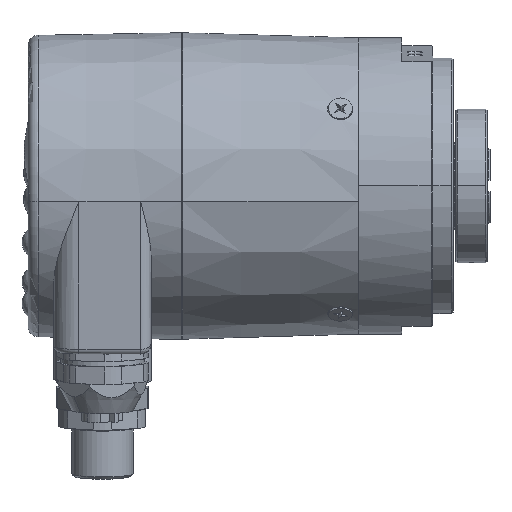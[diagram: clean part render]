
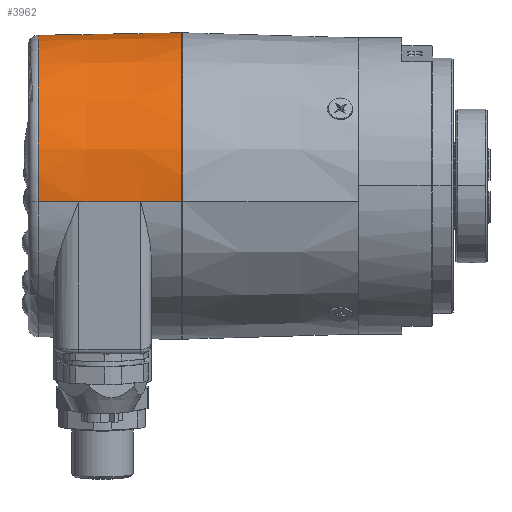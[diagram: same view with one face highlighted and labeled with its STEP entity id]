
A CAD part, top view. The second image highlights one B-rep face of the part: STEP entity #3962.
In plain terms, the highlighted conical face has half-angle 1 degrees and reference radius 30 mm.
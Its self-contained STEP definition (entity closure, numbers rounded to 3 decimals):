
#3837 = VERTEX_POINT ( 'NONE', #18920 ) ;
#3838 = ORIENTED_EDGE ( 'NONE', *, *, #3986, .T. ) ;
#3923 = ORIENTED_EDGE ( 'NONE', *, *, #3925, .F. ) ;
#3925 = EDGE_CURVE ( 'NONE', #3926, #3998, #19137, .T. ) ;
#3926 = VERTEX_POINT ( 'NONE', #19133 ) ;
#3927 = ORIENTED_EDGE ( 'NONE', *, *, #3928, .F. ) ;
#3928 = EDGE_CURVE ( 'NONE', #3972, #3926, #19131, .T. ) ;
#3962 = ADVANCED_FACE ( 'NONE', ( #19149 ), #19169, .T. ) ;
#3964 = EDGE_LOOP ( 'NONE', ( #3967, #3977, #3838, #3988, #3993, #3996, #3923, #3927 ) ) ;
#3967 = ORIENTED_EDGE ( 'NONE', *, *, #3969, .T. ) ;
#3969 = EDGE_CURVE ( 'NONE', #3972, #3975, #19230, .T. ) ;
#3972 = VERTEX_POINT ( 'NONE', #19223 ) ;
#3975 = VERTEX_POINT ( 'NONE', #19222 ) ;
#3977 = ORIENTED_EDGE ( 'NONE', *, *, #3979, .T. ) ;
#3979 = EDGE_CURVE ( 'NONE', #3975, #3837, #19220, .T. ) ;
#3986 = EDGE_CURVE ( 'NONE', #3837, #3987, #19256, .T. ) ;
#3987 = VERTEX_POINT ( 'NONE', #19252 ) ;
#3988 = ORIENTED_EDGE ( 'NONE', *, *, #3990, .T. ) ;
#3990 = EDGE_CURVE ( 'NONE', #3987, #3991, #19251, .T. ) ;
#3991 = VERTEX_POINT ( 'NONE', #19247 ) ;
#3993 = ORIENTED_EDGE ( 'NONE', *, *, #3994, .F. ) ;
#3994 = EDGE_CURVE ( 'NONE', #3995, #3991, #19246, .T. ) ;
#3995 = VERTEX_POINT ( 'NONE', #19239 ) ;
#3996 = ORIENTED_EDGE ( 'NONE', *, *, #3997, .F. ) ;
#3997 = EDGE_CURVE ( 'NONE', #3998, #3995, #19238, .T. ) ;
#3998 = VERTEX_POINT ( 'NONE', #19234 ) ;
#18920 = CARTESIAN_POINT ( 'NONE',  ( -46.383, -2.172, 29.155 ) ) ;
#19128 = DIRECTION ( 'NONE',  ( 1., 0.002, -0.017 ) ) ;
#19129 = VECTOR ( 'NONE', #19128, 1000. ) ;
#19130 = CARTESIAN_POINT ( 'NONE',  ( -26.295, 4.064, -30.167 ) ) ;
#19131 = LINE ( 'NONE', #19130, #19129 ) ;
#19133 = CARTESIAN_POINT ( 'NONE',  ( -46.383, 4.027, -29.819 ) ) ;
#19134 = DIRECTION ( 'NONE',  ( 1., 0.002, -0.017 ) ) ;
#19135 = VECTOR ( 'NONE', #19134, 1000. ) ;
#19136 = CARTESIAN_POINT ( 'NONE',  ( -26.819, 4.063, -30.158 ) ) ;
#19137 = LINE ( 'NONE', #19136, #19135 ) ;
#19149 = FACE_OUTER_BOUND ( 'NONE', #3964, .T. ) ;
#19168 = AXIS2_PLACEMENT_3D ( 'NONE', #19172, #19232, #19231 ) ;
#19169 = CONICAL_SURFACE ( 'NONE', #19168, 30., 0.017 ) ;
#19172 = CARTESIAN_POINT ( 'NONE',  ( -26.295, 0.928, -0.332 ) ) ;
#19217 = DIRECTION ( 'NONE',  ( 1., -0.002, 0.017 ) ) ;
#19218 = VECTOR ( 'NONE', #19217, 1000. ) ;
#19219 = CARTESIAN_POINT ( 'NONE',  ( -26.295, -2.208, 29.504 ) ) ;
#19220 = LINE ( 'NONE', #19219, #19218 ) ;
#19222 = CARTESIAN_POINT ( 'NONE',  ( -54.33, -2.157, 29.017 ) ) ;
#19223 = CARTESIAN_POINT ( 'NONE',  ( -54.33, 4.012, -29.681 ) ) ;
#19224 = DIRECTION ( 'NONE',  ( 0., -0.105, 0.995 ) ) ;
#19225 = DIRECTION ( 'NONE',  ( 1., 0., 0. ) ) ;
#19226 = CARTESIAN_POINT ( 'NONE',  ( -54.33, 0.928, -0.332 ) ) ;
#19228 = AXIS2_PLACEMENT_3D ( 'NONE', #19226, #19225, #19224 ) ;
#19230 = CIRCLE ( 'NONE', #19228, 29.511 ) ;
#19231 = DIRECTION ( 'NONE',  ( 0., 0.105, -0.995 ) ) ;
#19232 = DIRECTION ( 'NONE',  ( 1., 0., 0. ) ) ;
#19234 = CARTESIAN_POINT ( 'NONE',  ( -34.33, 4.049, -30.028 ) ) ;
#19235 = DIRECTION ( 'NONE',  ( 1., 0.002, -0.017 ) ) ;
#19236 = VECTOR ( 'NONE', #19235, 1000. ) ;
#19237 = CARTESIAN_POINT ( 'NONE',  ( -26.295, 4.064, -30.167 ) ) ;
#19238 = LINE ( 'NONE', #19237, #19236 ) ;
#19239 = CARTESIAN_POINT ( 'NONE',  ( -26.295, 4.064, -30.167 ) ) ;
#19241 = DIRECTION ( 'NONE',  ( 0., 0.105, -0.995 ) ) ;
#19242 = DIRECTION ( 'NONE',  ( 1., 0., 0. ) ) ;
#19243 = CARTESIAN_POINT ( 'NONE',  ( -26.295, 0.928, -0.332 ) ) ;
#19245 = AXIS2_PLACEMENT_3D ( 'NONE', #19243, #19242, #19241 ) ;
#19246 = CIRCLE ( 'NONE', #19245, 30. ) ;
#19247 = CARTESIAN_POINT ( 'NONE',  ( -26.295, -2.208, 29.504 ) ) ;
#19248 = DIRECTION ( 'NONE',  ( 1., -0.002, 0.017 ) ) ;
#19249 = VECTOR ( 'NONE', #19248, 1000. ) ;
#19250 = CARTESIAN_POINT ( 'NONE',  ( -26.295, -2.208, 29.504 ) ) ;
#19251 = LINE ( 'NONE', #19250, #19249 ) ;
#19252 = CARTESIAN_POINT ( 'NONE',  ( -34.33, -2.194, 29.365 ) ) ;
#19253 = DIRECTION ( 'NONE',  ( 1., -0.002, 0.017 ) ) ;
#19254 = VECTOR ( 'NONE', #19253, 1000. ) ;
#19255 = CARTESIAN_POINT ( 'NONE',  ( -26.819, -2.207, 29.495 ) ) ;
#19256 = LINE ( 'NONE', #19255, #19254 ) ;
